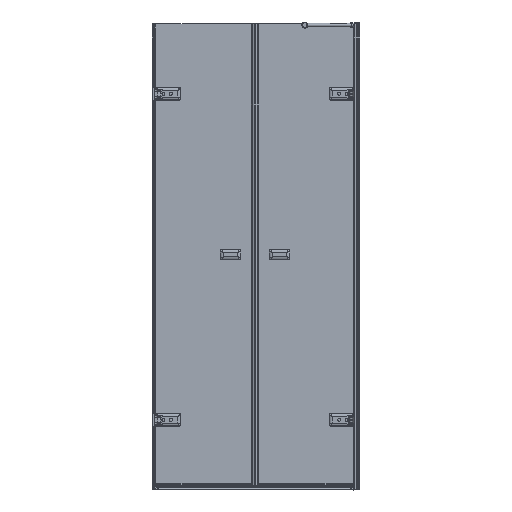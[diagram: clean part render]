
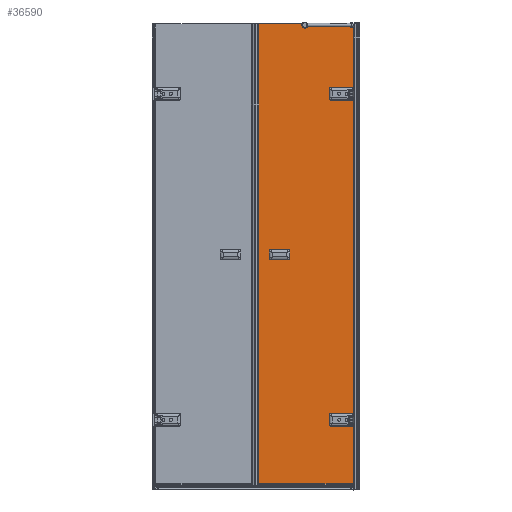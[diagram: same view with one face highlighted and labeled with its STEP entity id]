
A CAD part, left-side view. The second image highlights one B-rep face of the part: STEP entity #36590.
In plain terms, the highlighted planar face has unit normal (-1, 0, 0).
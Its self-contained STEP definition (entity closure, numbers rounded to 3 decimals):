
#243=FACE_BOUND($,#5502,.T.);
#244=FACE_BOUND($,#5503,.T.);
#245=FACE_BOUND($,#5504,.T.);
#1740=PLANE($,#39507);
#5502=EDGE_LOOP($,(#29438));
#5503=EDGE_LOOP($,(#29439));
#5504=EDGE_LOOP($,(#29440,#29441,#29442,#29443,#29444,#29445,#29446,#29447,
#29448,#29449,#29450,#29451,#29452,#29453,#29454,#29455));
#6732=CIRCLE($,#38405,6.5);
#6945=CIRCLE($,#38965,6.5);
#7156=CIRCLE($,#39508,10.);
#7157=CIRCLE($,#39509,10.);
#7158=CIRCLE($,#39510,10.);
#7159=CIRCLE($,#39511,10.);
#8729=LINE($,#70872,#12078);
#9382=LINE($,#73539,#12731);
#9764=LINE($,#75078,#13113);
#9775=LINE($,#75106,#13124);
#9790=LINE($,#75137,#13139);
#9791=LINE($,#75138,#13140);
#9792=LINE($,#75140,#13141);
#9793=LINE($,#75144,#13142);
#9794=LINE($,#75147,#13143);
#9795=LINE($,#75149,#13144);
#9796=LINE($,#75153,#13145);
#9797=LINE($,#75156,#13146);
#12078=VECTOR($,#44370,261.);
#12731=VECTOR($,#46129,1362.);
#13113=VECTOR($,#47167,406.7);
#13124=VECTOR($,#47194,281.);
#13139=VECTOR($,#47233,1980.);
#13140=VECTOR($,#47234,406.7);
#13141=VECTOR($,#47235,27.3);
#13142=VECTOR($,#47238,18.);
#13143=VECTOR($,#47241,27.3);
#13144=VECTOR($,#47242,27.3);
#13145=VECTOR($,#47245,18.);
#13146=VECTOR($,#47248,27.3);
#15412=VERTEX_POINT($,#69899);
#15605=VERTEX_POINT($,#70869);
#15606=VERTEX_POINT($,#70871);
#16064=VERTEX_POINT($,#72600);
#16244=VERTEX_POINT($,#73536);
#16245=VERTEX_POINT($,#73538);
#16611=VERTEX_POINT($,#75066);
#16616=VERTEX_POINT($,#75077);
#16625=VERTEX_POINT($,#75105);
#16629=VERTEX_POINT($,#75136);
#16630=VERTEX_POINT($,#75139);
#16631=VERTEX_POINT($,#75141);
#16632=VERTEX_POINT($,#75143);
#16633=VERTEX_POINT($,#75145);
#16634=VERTEX_POINT($,#75148);
#16635=VERTEX_POINT($,#75150);
#16636=VERTEX_POINT($,#75152);
#16637=VERTEX_POINT($,#75154);
#19254=EDGE_CURVE($,#15412,#15412,#6732,.T.);
#19560=EDGE_CURVE($,#15606,#15605,#8729,.T.);
#20224=EDGE_CURVE($,#16064,#16064,#6945,.T.);
#20515=EDGE_CURVE($,#16245,#16244,#9382,.T.);
#21074=EDGE_CURVE($,#16611,#16616,#9764,.T.);
#21090=EDGE_CURVE($,#16625,#16616,#9775,.T.);
#21105=EDGE_CURVE($,#16629,#16611,#9790,.T.);
#21106=EDGE_CURVE($,#16629,#15606,#9791,.T.);
#21107=EDGE_CURVE($,#15605,#16630,#9792,.T.);
#21108=EDGE_CURVE($,#16631,#16630,#7156,.T.);
#21109=EDGE_CURVE($,#16631,#16632,#9793,.T.);
#21110=EDGE_CURVE($,#16633,#16632,#7157,.T.);
#21111=EDGE_CURVE($,#16633,#16245,#9794,.T.);
#21112=EDGE_CURVE($,#16244,#16634,#9795,.T.);
#21113=EDGE_CURVE($,#16635,#16634,#7158,.T.);
#21114=EDGE_CURVE($,#16635,#16636,#9796,.T.);
#21115=EDGE_CURVE($,#16637,#16636,#7159,.T.);
#21116=EDGE_CURVE($,#16637,#16625,#9797,.T.);
#29438=ORIENTED_EDGE($,*,*,#19254,.T.);
#29439=ORIENTED_EDGE($,*,*,#20224,.T.);
#29440=ORIENTED_EDGE($,*,*,#21090,.T.);
#29441=ORIENTED_EDGE($,*,*,#21074,.F.);
#29442=ORIENTED_EDGE($,*,*,#21105,.F.);
#29443=ORIENTED_EDGE($,*,*,#21106,.T.);
#29444=ORIENTED_EDGE($,*,*,#19560,.T.);
#29445=ORIENTED_EDGE($,*,*,#21107,.T.);
#29446=ORIENTED_EDGE($,*,*,#21108,.F.);
#29447=ORIENTED_EDGE($,*,*,#21109,.T.);
#29448=ORIENTED_EDGE($,*,*,#21110,.F.);
#29449=ORIENTED_EDGE($,*,*,#21111,.T.);
#29450=ORIENTED_EDGE($,*,*,#20515,.T.);
#29451=ORIENTED_EDGE($,*,*,#21112,.T.);
#29452=ORIENTED_EDGE($,*,*,#21113,.F.);
#29453=ORIENTED_EDGE($,*,*,#21114,.T.);
#29454=ORIENTED_EDGE($,*,*,#21115,.F.);
#29455=ORIENTED_EDGE($,*,*,#21116,.T.);
#36590=ADVANCED_FACE($,(#243,#244,#245),#1740,.T.);
#38405=AXIS2_PLACEMENT_3D($,#69900,#43776,#43777);
#38965=AXIS2_PLACEMENT_3D($,#72601,#45557,#45558);
#39507=AXIS2_PLACEMENT_3D($,#75135,#47231,#47232);
#39508=AXIS2_PLACEMENT_3D($,#75142,#47236,#47237);
#39509=AXIS2_PLACEMENT_3D($,#75146,#47239,#47240);
#39510=AXIS2_PLACEMENT_3D($,#75151,#47243,#47244);
#39511=AXIS2_PLACEMENT_3D($,#75155,#47246,#47247);
#43776=DIRECTION('center_axis',(1.,0.,0.));
#43777=DIRECTION('ref_axis',(0.,-1.,0.));
#44370=DIRECTION($,(0.,0.,1.));
#45557=DIRECTION('center_axis',(1.,0.,0.));
#45558=DIRECTION('ref_axis',(0.,-1.,0.));
#46129=DIRECTION($,(0.,0.,1.));
#47167=DIRECTION($,(0.,-1.,0.));
#47194=DIRECTION($,(0.,0.,1.));
#47231=DIRECTION('center_axis',(-1.,0.,0.));
#47232=DIRECTION('ref_axis',(0.,-1.,0.));
#47233=DIRECTION($,(0.,0.,1.));
#47234=DIRECTION($,(0.,-1.,0.));
#47235=DIRECTION($,(0.,1.,0.));
#47236=DIRECTION('center_axis',(-1.,0.,0.));
#47237=DIRECTION('ref_axis',(0.,0.707,-0.707));
#47238=DIRECTION($,(0.,0.,1.));
#47239=DIRECTION('center_axis',(-1.,0.,0.));
#47240=DIRECTION('ref_axis',(0.,0.707,0.707));
#47241=DIRECTION($,(0.,-1.,0.));
#47242=DIRECTION($,(0.,1.,0.));
#47243=DIRECTION('center_axis',(-1.,0.,0.));
#47244=DIRECTION('ref_axis',(0.,0.707,-0.707));
#47245=DIRECTION($,(0.,0.,1.));
#47246=DIRECTION('center_axis',(-1.,0.,0.));
#47247=DIRECTION('ref_axis',(0.,0.707,0.707));
#47248=DIRECTION($,(0.,-1.,0.));
#69899=CARTESIAN_POINT('',(1239.697,48.134,-214.056));
#69900=CARTESIAN_POINT('Origin',(1239.697,41.634,-214.056));
#70869=CARTESIAN_POINT('',(1239.697,-18.666,-233.056));
#70871=CARTESIAN_POINT('',(1239.697,-18.666,-494.056));
#70872=CARTESIAN_POINT($,(1239.697,-18.666,-504.056));
#72600=CARTESIAN_POINT('',(1239.697,48.134,1185.944));
#72601=CARTESIAN_POINT('Origin',(1239.697,41.634,1185.944));
#73536=CARTESIAN_POINT('',(1239.697,-18.666,1166.944));
#73538=CARTESIAN_POINT('',(1239.697,-18.666,-195.056));
#73539=CARTESIAN_POINT($,(1239.697,-18.666,-349.056));
#75066=CARTESIAN_POINT('',(1239.697,388.034,1485.944));
#75077=CARTESIAN_POINT('',(1239.697,-18.666,1485.944));
#75078=CARTESIAN_POINT($,(1239.697,392.634,1485.944));
#75105=CARTESIAN_POINT('',(1239.697,-18.666,1204.944));
#75106=CARTESIAN_POINT($,(1239.697,-18.666,350.944));
#75135=CARTESIAN_POINT('Origin',(1239.697,392.634,-494.056));
#75136=CARTESIAN_POINT('',(1239.697,388.034,-494.056));
#75137=CARTESIAN_POINT($,(1239.697,388.034,-494.056));
#75138=CARTESIAN_POINT($,(1239.697,392.634,-494.056));
#75139=CARTESIAN_POINT('',(1239.697,8.634,-233.056));
#75140=CARTESIAN_POINT($,(1239.697,205.634,-233.056));
#75141=CARTESIAN_POINT('',(1239.697,18.634,-223.056));
#75142=CARTESIAN_POINT('Origin',(1239.697,8.634,-223.056));
#75143=CARTESIAN_POINT('',(1239.697,18.634,-205.056));
#75144=CARTESIAN_POINT($,(1239.697,18.634,-344.556));
#75145=CARTESIAN_POINT('',(1239.697,8.634,-195.056));
#75146=CARTESIAN_POINT('Origin',(1239.697,8.634,-205.056));
#75147=CARTESIAN_POINT($,(1239.697,184.634,-195.056));
#75148=CARTESIAN_POINT('',(1239.697,8.634,1166.944));
#75149=CARTESIAN_POINT($,(1239.697,205.634,1166.944));
#75150=CARTESIAN_POINT('',(1239.697,18.634,1176.944));
#75151=CARTESIAN_POINT('Origin',(1239.697,8.634,1176.944));
#75152=CARTESIAN_POINT('',(1239.697,18.634,1194.944));
#75153=CARTESIAN_POINT($,(1239.697,18.634,355.444));
#75154=CARTESIAN_POINT('',(1239.697,8.634,1204.944));
#75155=CARTESIAN_POINT('Origin',(1239.697,8.634,1194.944));
#75156=CARTESIAN_POINT($,(1239.697,184.634,1204.944));
